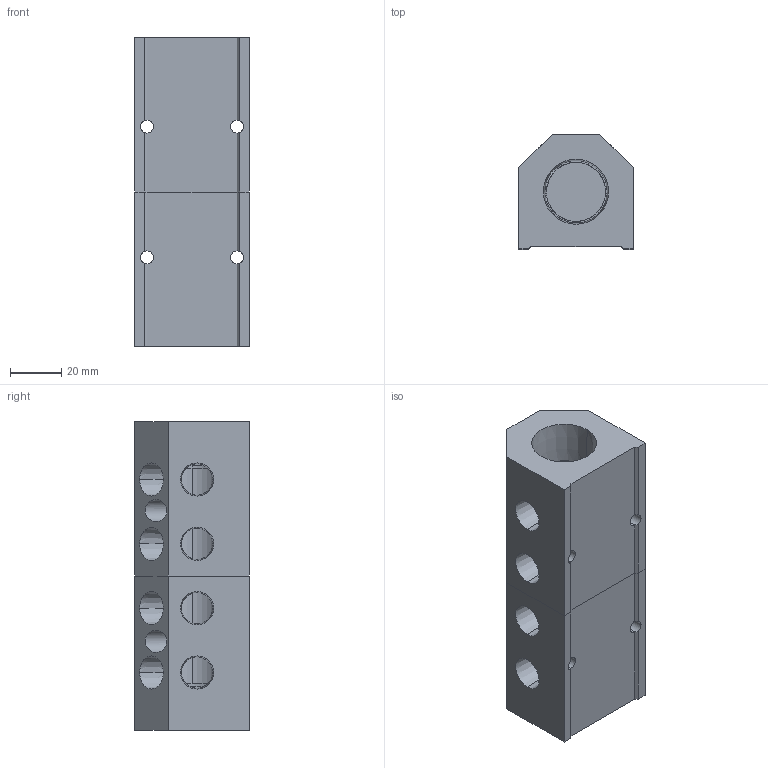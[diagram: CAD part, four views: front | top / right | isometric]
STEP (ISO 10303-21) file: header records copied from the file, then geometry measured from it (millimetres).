
FILE_DESCRIPTION (( 'STEP AP214' ), '1' );
FILE_NAME ('ALM4AB-N4N12-120RB.step', '2022-02-06T14:18:34', ( '' ), ( '' ), 'SwSTEP 2.0', 'SolidWorks 2020', '' );
FILE_SCHEMA (( 'AUTOMOTIVE_DESIGN' ));
Length unit declared in the file: millimetre
Products named in the file (1): ALM4AB-N4N12-120RB
Bounding box: 44.5 x 44.5 x 120 mm (x, y, z)
Volume: 147054.5 mm3; surface area: 39163.5 mm2
Topology: 2 solids, 2 shells, 353 faces, 953 edges, 632 vertices
Faces by surface type: plane 250, bspline 51, cylinder 27, cone 25
Entity records: 18427 total; most frequent: CARTESIAN_POINT 6608, ORIENTED_EDGE 1906, DIRECTION 1443, EDGE_CURVE 953, LINE 697, VECTOR 697, VERTEX_POINT 632, EDGE_LOOP 405
